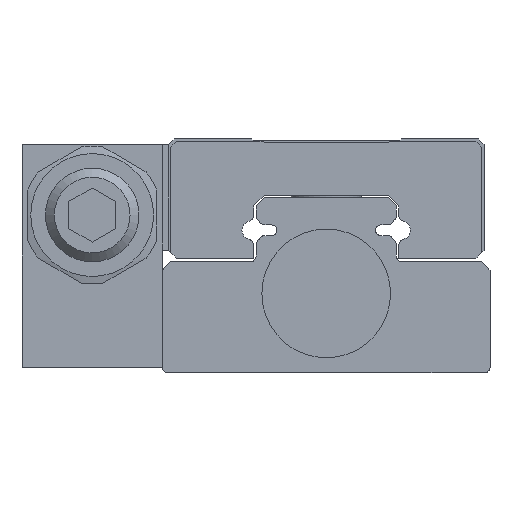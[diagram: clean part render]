
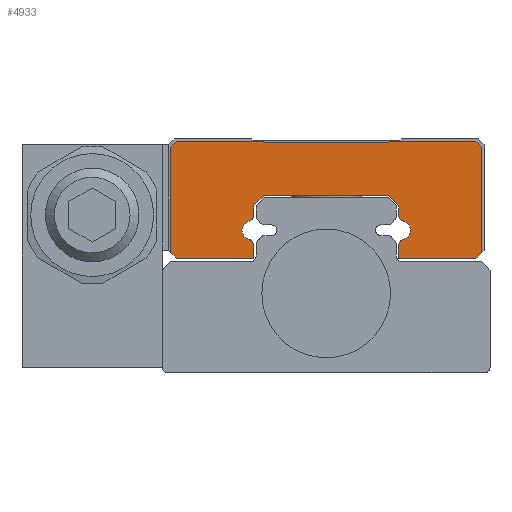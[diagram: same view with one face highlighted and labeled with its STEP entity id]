
A CAD part, front view. The second image highlights one B-rep face of the part: STEP entity #4933.
In plain terms, the highlighted planar face has unit normal (0, -1, 0).
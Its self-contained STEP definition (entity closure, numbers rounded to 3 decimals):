
#365=CIRCLE('',#5488,0.5);
#366=CIRCLE('',#5489,0.8);
#367=CIRCLE('',#5490,0.5);
#368=CIRCLE('',#5491,0.5);
#369=CIRCLE('',#5492,0.8);
#370=CIRCLE('',#5493,0.5);
#1392=ORIENTED_EDGE('',*,*,#2225,.F.);
#1393=ORIENTED_EDGE('',*,*,#2209,.F.);
#1394=ORIENTED_EDGE('',*,*,#2226,.F.);
#1395=ORIENTED_EDGE('',*,*,#2227,.F.);
#1396=ORIENTED_EDGE('',*,*,#2228,.T.);
#1397=ORIENTED_EDGE('',*,*,#2229,.F.);
#1398=ORIENTED_EDGE('',*,*,#2230,.F.);
#1399=ORIENTED_EDGE('',*,*,#2206,.F.);
#1400=ORIENTED_EDGE('',*,*,#2203,.F.);
#1401=ORIENTED_EDGE('',*,*,#2199,.F.);
#1402=ORIENTED_EDGE('',*,*,#2231,.F.);
#1403=ORIENTED_EDGE('',*,*,#2232,.F.);
#1404=ORIENTED_EDGE('',*,*,#2233,.T.);
#1405=ORIENTED_EDGE('',*,*,#2234,.F.);
#1406=ORIENTED_EDGE('',*,*,#2235,.F.);
#1407=ORIENTED_EDGE('',*,*,#2195,.F.);
#1408=ORIENTED_EDGE('',*,*,#2236,.F.);
#1409=ORIENTED_EDGE('',*,*,#2166,.F.);
#1410=ORIENTED_EDGE('',*,*,#2163,.F.);
#1411=ORIENTED_EDGE('',*,*,#2160,.F.);
#1412=ORIENTED_EDGE('',*,*,#2157,.F.);
#1413=ORIENTED_EDGE('',*,*,#2154,.F.);
#1414=ORIENTED_EDGE('',*,*,#2151,.F.);
#1415=ORIENTED_EDGE('',*,*,#2148,.F.);
#1416=ORIENTED_EDGE('',*,*,#2145,.F.);
#1417=ORIENTED_EDGE('',*,*,#2142,.F.);
#2142=EDGE_CURVE('',#2674,#2672,#3057,.T.);
#2145=EDGE_CURVE('',#2672,#2676,#3060,.T.);
#2148=EDGE_CURVE('',#2676,#2678,#3063,.T.);
#2151=EDGE_CURVE('',#2678,#2680,#3066,.T.);
#2154=EDGE_CURVE('',#2680,#2682,#3069,.T.);
#2157=EDGE_CURVE('',#2682,#2684,#3072,.T.);
#2160=EDGE_CURVE('',#2684,#2686,#3075,.T.);
#2163=EDGE_CURVE('',#2686,#2688,#3078,.T.);
#2166=EDGE_CURVE('',#2688,#2690,#3081,.T.);
#2195=EDGE_CURVE('',#2711,#2712,#3110,.T.);
#2199=EDGE_CURVE('',#2715,#2716,#3114,.T.);
#2203=EDGE_CURVE('',#2716,#2719,#3118,.T.);
#2206=EDGE_CURVE('',#2719,#2721,#3121,.T.);
#2209=EDGE_CURVE('',#2723,#2724,#3124,.T.);
#2225=EDGE_CURVE('',#2724,#2674,#3134,.T.);
#2226=EDGE_CURVE('',#2735,#2723,#3135,.T.);
#2227=EDGE_CURVE('',#2736,#2735,#365,.T.);
#2228=EDGE_CURVE('',#2736,#2737,#366,.T.);
#2229=EDGE_CURVE('',#2738,#2737,#367,.T.);
#2230=EDGE_CURVE('',#2721,#2738,#3136,.T.);
#2231=EDGE_CURVE('',#2739,#2715,#3137,.T.);
#2232=EDGE_CURVE('',#2740,#2739,#368,.T.);
#2233=EDGE_CURVE('',#2740,#2741,#369,.T.);
#2234=EDGE_CURVE('',#2742,#2741,#370,.T.);
#2235=EDGE_CURVE('',#2712,#2742,#3138,.T.);
#2236=EDGE_CURVE('',#2690,#2711,#3139,.T.);
#2672=VERTEX_POINT('',#8160);
#2674=VERTEX_POINT('',#8164);
#2676=VERTEX_POINT('',#8169);
#2678=VERTEX_POINT('',#8175);
#2680=VERTEX_POINT('',#8181);
#2682=VERTEX_POINT('',#8187);
#2684=VERTEX_POINT('',#8193);
#2686=VERTEX_POINT('',#8199);
#2688=VERTEX_POINT('',#8205);
#2690=VERTEX_POINT('',#8211);
#2711=VERTEX_POINT('',#8273);
#2712=VERTEX_POINT('',#8274);
#2715=VERTEX_POINT('',#8282);
#2716=VERTEX_POINT('',#8283);
#2719=VERTEX_POINT('',#8291);
#2721=VERTEX_POINT('',#8297);
#2723=VERTEX_POINT('',#8303);
#2724=VERTEX_POINT('',#8304);
#2735=VERTEX_POINT('',#8334);
#2736=VERTEX_POINT('',#8336);
#2737=VERTEX_POINT('',#8338);
#2738=VERTEX_POINT('',#8340);
#2739=VERTEX_POINT('',#8343);
#2740=VERTEX_POINT('',#8345);
#2741=VERTEX_POINT('',#8347);
#2742=VERTEX_POINT('',#8349);
#3057=LINE('',#8165,#3445);
#3060=LINE('',#8171,#3448);
#3063=LINE('',#8177,#3451);
#3066=LINE('',#8183,#3454);
#3069=LINE('',#8189,#3457);
#3072=LINE('',#8195,#3460);
#3075=LINE('',#8201,#3463);
#3078=LINE('',#8207,#3466);
#3081=LINE('',#8213,#3469);
#3110=LINE('',#8272,#3498);
#3114=LINE('',#8281,#3502);
#3118=LINE('',#8290,#3506);
#3121=LINE('',#8296,#3509);
#3124=LINE('',#8302,#3512);
#3134=LINE('',#8332,#3522);
#3135=LINE('',#8333,#3523);
#3136=LINE('',#8341,#3524);
#3137=LINE('',#8342,#3525);
#3138=LINE('',#8350,#3526);
#3139=LINE('',#8351,#3527);
#3445=VECTOR('',#6643,1000.);
#3448=VECTOR('',#6648,1000.);
#3451=VECTOR('',#6653,1000.);
#3454=VECTOR('',#6658,1000.);
#3457=VECTOR('',#6663,1000.);
#3460=VECTOR('',#6668,1000.);
#3463=VECTOR('',#6673,1000.);
#3466=VECTOR('',#6678,1000.);
#3469=VECTOR('',#6683,1000.);
#3498=VECTOR('',#6732,1000.);
#3502=VECTOR('',#6738,1000.);
#3506=VECTOR('',#6744,1000.);
#3509=VECTOR('',#6749,1000.);
#3512=VECTOR('',#6754,1000.);
#3522=VECTOR('',#6780,1000.);
#3523=VECTOR('',#6781,1000.);
#3524=VECTOR('',#6788,1000.);
#3525=VECTOR('',#6789,1000.);
#3526=VECTOR('',#6796,1000.);
#3527=VECTOR('',#6797,1000.);
#3939=EDGE_LOOP('',(#1392,#1393,#1394,#1395,#1396,#1397,#1398,#1399,#1400,
#1401,#1402,#1403,#1404,#1405,#1406,#1407,#1408,#1409,#1410,#1411,#1412,
#1413,#1414,#1415,#1416,#1417));
#4393=FACE_BOUND('',#3939,.T.);
#4648=PLANE('',#5487);
#4933=ADVANCED_FACE('',(#4393),#4648,.F.);
#5487=AXIS2_PLACEMENT_3D('',#8331,#6778,#6779);
#5488=AXIS2_PLACEMENT_3D('',#8335,#6782,#6783);
#5489=AXIS2_PLACEMENT_3D('',#8337,#6784,#6785);
#5490=AXIS2_PLACEMENT_3D('',#8339,#6786,#6787);
#5491=AXIS2_PLACEMENT_3D('',#8344,#6790,#6791);
#5492=AXIS2_PLACEMENT_3D('',#8346,#6792,#6793);
#5493=AXIS2_PLACEMENT_3D('',#8348,#6794,#6795);
#6643=DIRECTION('',(0.,0.,1.));
#6648=DIRECTION('',(0.707,0.,0.707));
#6653=DIRECTION('',(1.,0.,0.));
#6658=DIRECTION('',(0.707,0.,-0.707));
#6663=DIRECTION('',(1.,0.,0.));
#6668=DIRECTION('',(0.707,0.,0.707));
#6673=DIRECTION('',(1.,0.,0.));
#6678=DIRECTION('',(0.707,0.,-0.707));
#6683=DIRECTION('',(0.,0.,-1.));
#6732=DIRECTION('',(-1.,0.,0.));
#6738=DIRECTION('',(-0.707,0.,0.707));
#6744=DIRECTION('',(-1.,0.,0.));
#6749=DIRECTION('',(-0.707,0.,-0.707));
#6754=DIRECTION('',(-1.,0.,0.));
#6778=DIRECTION('',(0.,1.,0.));
#6779=DIRECTION('',(0.,0.,1.));
#6780=DIRECTION('',(-0.707,0.,0.707));
#6781=DIRECTION('',(0.,0.,-1.));
#6782=DIRECTION('',(0.,1.,0.));
#6783=DIRECTION('',(1.,0.,0.));
#6784=DIRECTION('',(0.,1.,0.));
#6785=DIRECTION('',(1.,0.,0.));
#6786=DIRECTION('',(0.,1.,0.));
#6787=DIRECTION('',(1.,0.,0.));
#6788=DIRECTION('',(0.,0.,-1.));
#6789=DIRECTION('',(0.,0.,1.));
#6790=DIRECTION('',(0.,1.,0.));
#6791=DIRECTION('',(1.,0.,0.));
#6792=DIRECTION('',(0.,1.,0.));
#6793=DIRECTION('',(1.,0.,0.));
#6794=DIRECTION('',(0.,1.,0.));
#6795=DIRECTION('',(1.,0.,0.));
#6796=DIRECTION('',(0.,0.,1.));
#6797=DIRECTION('',(-0.707,0.,-0.707));
#8160=CARTESIAN_POINT('',(-13.3,20.8,19.3));
#8164=CARTESIAN_POINT('',(-13.3,20.8,10.3));
#8165=CARTESIAN_POINT('',(-13.3,20.8,10.3));
#8169=CARTESIAN_POINT('',(-12.8,20.8,19.8));
#8171=CARTESIAN_POINT('',(-13.3,20.8,19.3));
#8175=CARTESIAN_POINT('',(-5.4,20.8,19.8));
#8177=CARTESIAN_POINT('',(-12.8,20.8,19.8));
#8181=CARTESIAN_POINT('',(-5.3,20.8,19.7));
#8183=CARTESIAN_POINT('',(-5.4,20.8,19.8));
#8187=CARTESIAN_POINT('',(5.3,20.8,19.7));
#8189=CARTESIAN_POINT('',(-5.3,20.8,19.7));
#8193=CARTESIAN_POINT('',(5.4,20.8,19.8));
#8195=CARTESIAN_POINT('',(5.3,20.8,19.7));
#8199=CARTESIAN_POINT('',(12.8,20.8,19.8));
#8201=CARTESIAN_POINT('',(5.4,20.8,19.8));
#8205=CARTESIAN_POINT('',(13.3,20.8,19.3));
#8207=CARTESIAN_POINT('',(12.8,20.8,19.8));
#8211=CARTESIAN_POINT('',(13.3,20.8,10.3));
#8213=CARTESIAN_POINT('',(13.3,20.8,19.3));
#8272=CARTESIAN_POINT('',(12.8,20.8,9.8));
#8273=CARTESIAN_POINT('',(12.8,20.8,9.8));
#8274=CARTESIAN_POINT('',(6.2,20.8,9.8));
#8281=CARTESIAN_POINT('',(6.2,20.8,14.28));
#8282=CARTESIAN_POINT('',(6.2,20.8,14.28));
#8283=CARTESIAN_POINT('',(5.3,20.8,15.18));
#8290=CARTESIAN_POINT('',(5.3,20.8,15.18));
#8291=CARTESIAN_POINT('',(-5.3,20.8,15.18));
#8296=CARTESIAN_POINT('',(-5.3,20.8,15.18));
#8297=CARTESIAN_POINT('',(-6.2,20.8,14.28));
#8302=CARTESIAN_POINT('',(-6.2,20.8,9.8));
#8303=CARTESIAN_POINT('',(-6.2,20.8,9.8));
#8304=CARTESIAN_POINT('',(-12.8,20.8,9.8));
#8331=CARTESIAN_POINT('',(6.7,20.8,10.935));
#8332=CARTESIAN_POINT('',(-12.8,20.8,9.8));
#8333=CARTESIAN_POINT('',(-6.2,20.8,10.935));
#8334=CARTESIAN_POINT('',(-6.2,20.8,10.935));
#8335=CARTESIAN_POINT('',(-6.7,20.8,10.935));
#8336=CARTESIAN_POINT('',(-6.585,20.8,11.422));
#8337=CARTESIAN_POINT('',(-6.4,20.8,12.2));
#8338=CARTESIAN_POINT('',(-6.585,20.8,12.978));
#8339=CARTESIAN_POINT('',(-6.7,20.8,13.465));
#8340=CARTESIAN_POINT('',(-6.2,20.8,13.465));
#8341=CARTESIAN_POINT('',(-6.2,20.8,14.28));
#8342=CARTESIAN_POINT('',(6.2,20.8,13.465));
#8343=CARTESIAN_POINT('',(6.2,20.8,13.465));
#8344=CARTESIAN_POINT('',(6.7,20.8,13.465));
#8345=CARTESIAN_POINT('',(6.585,20.8,12.978));
#8346=CARTESIAN_POINT('',(6.4,20.8,12.2));
#8347=CARTESIAN_POINT('',(6.585,20.8,11.422));
#8348=CARTESIAN_POINT('',(6.7,20.8,10.935));
#8349=CARTESIAN_POINT('',(6.2,20.8,10.935));
#8350=CARTESIAN_POINT('',(6.2,20.8,9.8));
#8351=CARTESIAN_POINT('',(13.3,20.8,10.3));
